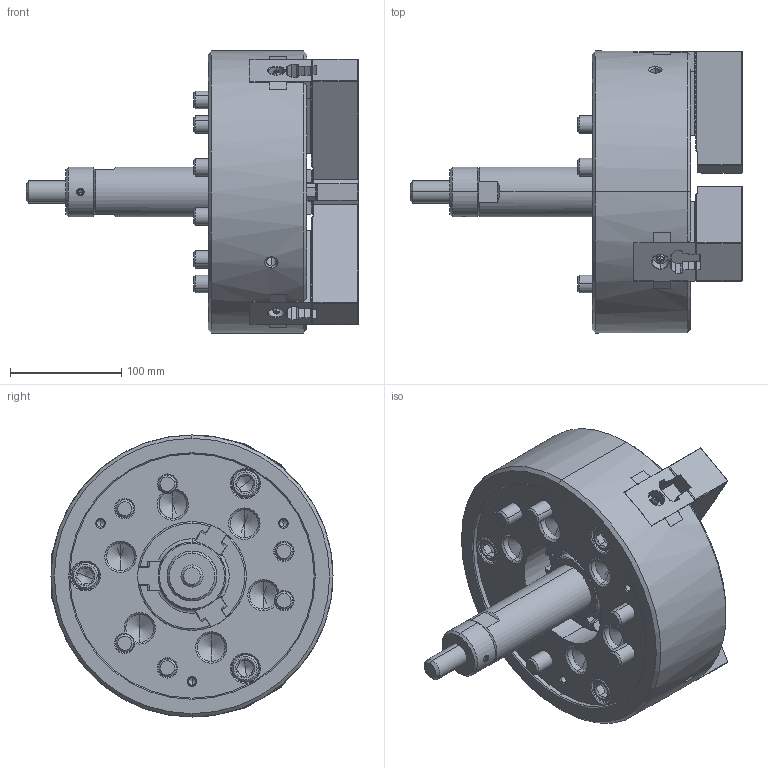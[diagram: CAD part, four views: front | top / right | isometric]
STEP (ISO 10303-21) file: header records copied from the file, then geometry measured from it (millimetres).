
FILE_DESCRIPTION (( 'STEP AP214' ), '1' );
FILE_NAME ('DT1_N-10_OUTSIDE_VIEW_UC.STEP', '2026-03-16T00:20:14', ( '' ), ( '' ), 'SwSTEP 2.0', 'SolidWorks 2022', '' );
FILE_SCHEMA (( 'AUTOMOTIVE_DESIGN' ));
Length unit declared in the file: millimetre
Products named in the file (11): DT1_N-10_M5x12^DT1_N-10; DT1_N-10_TNUT^DT1_N-10; DT1_N-10_SOFTJAW^DT1_N-10; Copy of 61P310584^DT1_N-10; DT1_N-10_DN^DT1_N-10; DT1_N-10_OUTSIDE_VIEW_UC; DT1_N-10_M12x35^DT1_N-10; DT1_N-10_BASE^DT1_N-10; DT1_N-10_DRAWSCREW^DT1_N-10; DT1_N-10_COVER^DT1_N-10; DT1_N-10_M16x85^DT1_N-10
Assembly tree (26 placements, depth 2):
  DT1_N-10_OUTSIDE_VIEW_UC
    DT1_N-10_SOFTJAW^DT1_N-10  x3
    DT1_N-10_TNUT^DT1_N-10  x3
    DT1_N-10_COVER^DT1_N-10
    DT1_N-10_DRAWSCREW^DT1_N-10
    Copy of 61P310584^DT1_N-10
    DT1_N-10_DN^DT1_N-10
    DT1_N-10_BASE^DT1_N-10
    DT1_N-10_M5x12^DT1_N-10  x3
    DT1_N-10_M12x35^DT1_N-10  x6
    DT1_N-10_M16x85^DT1_N-10  x6
Bounding box: 299 x 254 x 254 mm (x, y, z)
Volume: 4686781.6 mm3; surface area: 513039.5 mm2
Topology: 26 solids, 26 shells, 4176 faces, 11735 edges, 7652 vertices
Faces by surface type: plane 2980, cylinder 601, cone 420, bspline 111, torus 58, sphere 6
Entity records: 105393 total; most frequent: CARTESIAN_POINT 28727, ORIENTED_EDGE 17094, DIRECTION 14027, EDGE_CURVE 8547, LINE 6345, VECTOR 6345, VERTEX_POINT 5596, AXIS2_PLACEMENT_3D 3841
